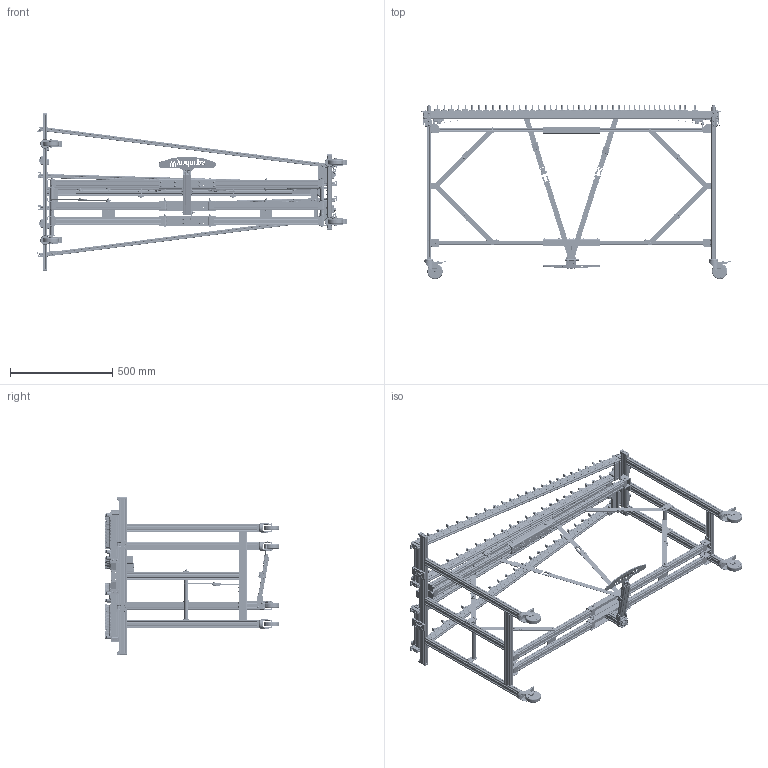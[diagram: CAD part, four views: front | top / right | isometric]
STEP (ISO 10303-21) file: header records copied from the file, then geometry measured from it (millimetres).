
FILE_DESCRIPTION((''),'2;1');
FILE_NAME('0000204031_ASM','2024-04-19T12:43:22',('Wyndorps'),(''),'CREO PARAMETRIC BY PTC INC, 2022484','CREO PARAMETRIC BY PTC INC, 2022484','');
FILE_SCHEMA(('CONFIG_CONTROL_DESIGN'));
Products named in the file (251): 0000203581; 0000203582; 0000186905; 0000186904; 0000203573; 9000101326; 0000203587; 0000208622; 9000101319; 0000186969_ASM; 0000203985; 0000203984; 0000203977; 0000203981; 0000204511_ASM; 0000187050; 0000208877; 0000187047; 0000208879; 9000101322; 8000000020; 0000187039; 0000187049_AF0; 0000187049_AF1; 0000187048; 9000068008; 9000037608; 0000187104_AF0_ASM; 0000187104_AF1_ASM; 0000187104_AF2_ASM; 0000187104_AF3_ASM; 8100000129; 0000205819; 0000187104_AF94_ASM; 0000187104_AF95_ASM; 0000187104_AF96_ASM; 0000187104_AF97_ASM; 0000205830; 9000037003; 0000205822_AF1_ASM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
Assembly tree (1019 placements, depth 7):
  0000204031_ASM
    0000186966_ASM
      0000186967_ASM
        0000186969_ASM
          0000203581
          0000203582
          0000186905
          0000186904
          0000203573  x4
          9000101326  x8
          0000203587  x4
          0000208622  x4
          9000101319  x8
        0000204511_ASM
          0000203985
          0000203984
          0000203977
          0000203981
        0000187050
        0000208877  x2
        0000187047
        0000208879  x2
        9000101322  x8
        8000000020  x8
        0000204956_ASM
          0000187039
          0000187049_AF0
          0000187049_AF1
          0000187048  x2
          9000068008  x6
          9000037608  x6
          0000187104_AF0_ASM
            9000101319
            8000000020
          0000187104_AF1_ASM
            9000101319
            8000000020
          0000187104_AF2_ASM
            9000101319
            8000000020
          0000187104_AF3_ASM
            9000101319
            8000000020
          8100000129  x2
          0000205822_AF1_ASM
            0000205819  x2
            0000187104_AF94_ASM
              9000101319
              8000000020
            0000187104_AF95_ASM
              9000101319
              8000000020
            0000187104_AF96_ASM
              9000101319
              8000000020
            0000187104_AF97_ASM
              9000101319
              8000000020
            0000205830
            9000037003  x2
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Bounding box: 1511.97 x 850.5 x 770 mm (x, y, z)
Volume: 8575700.3 mm3; surface area: 7067798.6 mm2
Topology: 973 solids, 1657 shells, 39638 faces, 95836 edges, 59987 vertices
Faces by surface type: plane 18963, cylinder 12373, cone 3752, torus 2214, bspline 1110, sphere 1068, extrusion 158
Entity records: 244458 total; most frequent: CARTESIAN_POINT 60308, DIRECTION 39165, ORIENTED_EDGE 36068, EDGE_CURVE 18164, AXIS2_PLACEMENT_3D 13995, VERTEX_POINT 11827, VECTOR 11175, LINE 11017
